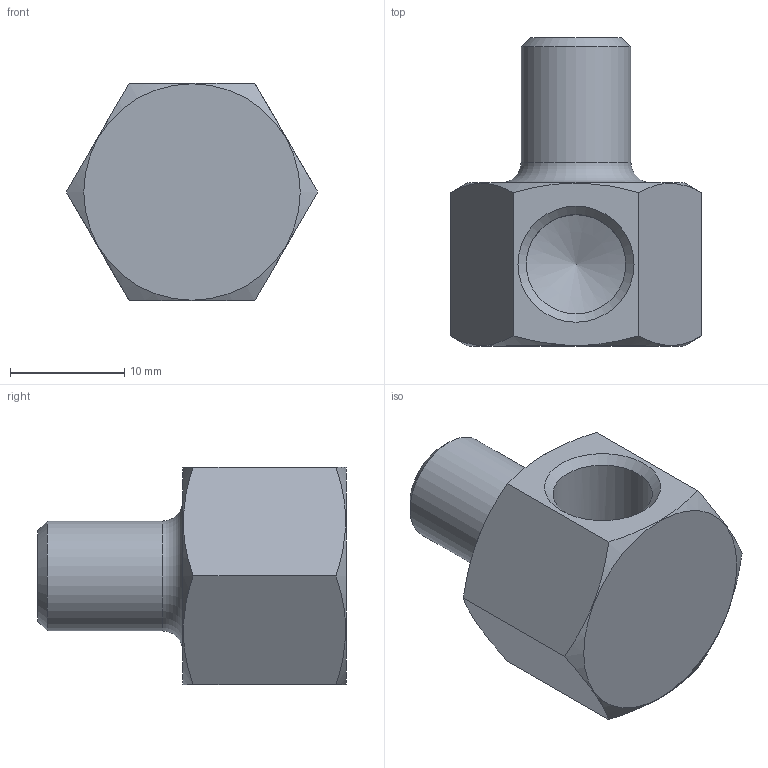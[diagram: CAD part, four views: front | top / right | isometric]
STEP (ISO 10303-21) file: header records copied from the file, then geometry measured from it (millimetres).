
FILE_DESCRIPTION(/* description */ (''),/* implementation_level */ '2;1');
FILE_NAME(/* name */ 'C:/Users/drich/Desktop/M18S-M18SB v1.step',/* time_stamp */ '2019-12-27T18:05:51-06:00',/* author */ (''),/* organization */ (''),/* preprocessor_version */ 'ST-DEVELOPER v18',/* originating_system */ 'Autodesk Translation Framework v8.12.0.6',/* authorisation */ '');
FILE_SCHEMA (('AUTOMOTIVE_DESIGN { 1 0 10303 214 3 1 1 }'));
Length unit declared in the file: inch
Products named in the file (1): M18S-M18SB
Bounding box: 22 x 26.97 x 19.05 mm (x, y, z)
Volume: 4108.8 mm3; surface area: 2480.6 mm2
Topology: 1 solids, 1 shells, 19 faces, 48 edges, 31 vertices
Faces by surface type: plane 9, cone 6, cylinder 3, torus 1
Full cylindrical faces by diameter (mm): 6.35 x1, 8.707 x1, 9.621 x1
Entity records: 633 total; most frequent: CARTESIAN_POINT 159, ORIENTED_EDGE 94, DIRECTION 89, EDGE_CURVE 47, AXIS2_PLACEMENT_3D 37, VERTEX_POINT 31, EDGE_LOOP 22, FACE_OUTER_BOUND 19
